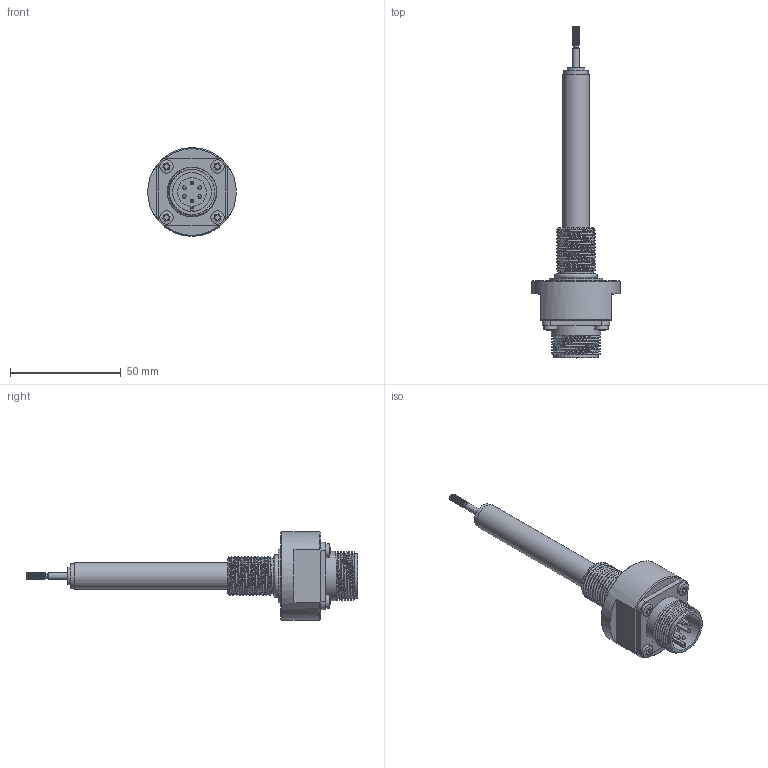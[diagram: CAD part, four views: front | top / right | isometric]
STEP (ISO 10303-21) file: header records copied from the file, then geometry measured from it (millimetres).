
FILE_DESCRIPTION( ( 'Unknown' ), '1' );
FILE_NAME( 'N:/Engineering/CAD/LVDT/HYD/Kunden-3D-Modell/SM25-HYD-M-18-S.stp', 'Unknown', ( 'Unknown' ), ( 'Unknown' ), 'PSStep 17.0.49', 'Unknown', ' ' );
FILE_SCHEMA( ( 'AUTOMOTIVE_DESIGN { 1 0 10303 214 1 1 1 1 }' ) );
Length unit declared in the file: millimetre
Products named in the file (9): Assem1; Endkappe; Innenrohr_SM5-HYD; Kernverlängerung_SM5-HYD; SM-HYD-Flansch_M18_vereinfacht; O-Ring_15,4x2,1; MIL-Stecker_2; DIN7985_M3-6_Torx; Aussenrohr_SM25-HYD-M_vereinfacht
Assembly tree (11 placements, depth 2):
  Assem1
    Endkappe
    Innenrohr_SM5-HYD
    Kernverlängerung_SM5-HYD
    SM-HYD-Flansch_M18_vereinfacht
    O-Ring_15,4x2,1
    MIL-Stecker_2
    DIN7985_M3-6_Torx  x4
    Aussenrohr_SM25-HYD-M_vereinfacht
Bounding box: 40 x 149.9 x 40 mm (x, y, z)
Volume: 40125.9 mm3; surface area: 21620.6 mm2
Topology: 11 solids, 11 shells, 255 faces, 589 edges, 385 vertices
Faces by surface type: plane 132, cylinder 82, cone 22, bspline 14, sphere 4, torus 1
Full cylindrical faces by diameter (mm): 1.4 x6, 1.6 x6, 2.013 x1, 2.4 x1, 2.5 x8, 3 x9, 4 x1, 6 x6, 8 x1, 10 x1, 11 x2, 12 x3, 13 x1, 15.8 x1, 17.6 x1, 18.8 x1, 20.2 x1, 22.3 x7, 24 x1, 40 x1
Entity records: 13563 total; most frequent: CARTESIAN_POINT 8176, DIRECTION 792, ORIENTED_EDGE 656, AXIS2_PLACEMENT_3D 336, EDGE_CURVE 328, EDGE_LOOP 289, VERTEX_POINT 255, FACE_OUTER_BOUND 236
